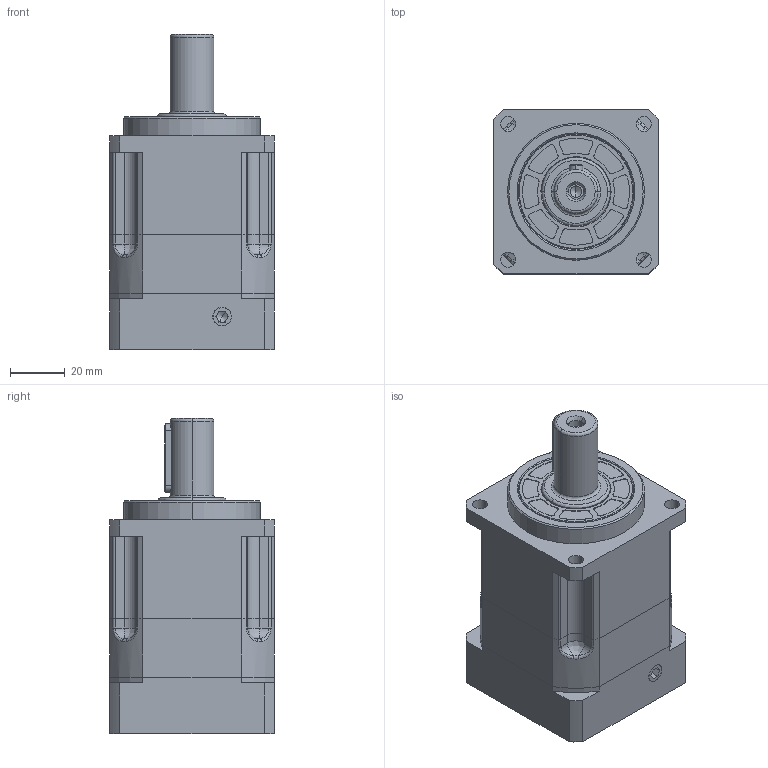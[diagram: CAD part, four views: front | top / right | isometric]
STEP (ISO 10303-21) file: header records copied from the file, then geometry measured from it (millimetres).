
FILE_DESCRIPTION (( 'STEP AP214' ), '1' );
FILE_NAME ('OB62L1-50-14-M5.STEP', '2020-08-10T08:30:36', ( '微软用户' ), ( '微软中国' ), 'SwSTEP 2.0', 'SolidWorks 2014', '' );
FILE_SCHEMA (( 'AUTOMOTIVE_DESIGN' ));
Length unit declared in the file: millimetre
Products named in the file (76): Hexagon socket head cap screws GB_GB_FASTENER_SCREWS_HSHCS M4X20-N; Hexagon socket head cap screws GB_GB_FASTENER_SCREWS_HSHCS M5X16-N; 俴陎粣5X18.5; 珨撰怮栠謫5A; Plain parallel keys_GB_CONNECTING_PIECE_KEYS_CSK 5X25; 珨撰薊粣ん14K12; Spring lock washers--Normal type GB_GB_FASTENER_WASHER_SW 4; 珨撰俴陎謫5A; Deep groove ball bearings GB_Rolling bearings 61905 GB 276-94; 珨撰萇儂楊擘50; Circlips for shaft--Type A large GB_GB_CONNECTING_PIECE_RING_RRA 25; 俴陎謫菜え5.5X12; 珨撰笢潔楊擘; Circlips for hole--Type B GB_GB_CONNECTING_PIECE_RINGS_CHB 30; Circlips for holes--Type A GB_GB_CONNECTING_PIECE_RING_RRH 42; Deep groove ball bearings GB_Rolling bearings 61808 GB 276-94; 蚐猾25X42X7; 幗渀粣創5X8X8; 怀堤粣5A; 一级齿圈Z84; OB62L1-50-14-M5; Hex socket set screws with flat point GB_GB_FAENER_SCREWS_HSFP M8X10-N; Plain parallel keys_GB_CONNECTING_PIECE_KEYS_CSK C3X12
Assembly tree (53 placements, depth 2):
  Hexagon socket head cap screws GB_GB_FASTENER_SCREWS_HSHCS M4X20-N
  俴陎粣5X18.5
  珨撰怮栠謫5A
  Hexagon socket head cap screws GB_GB_FASTENER_SCREWS_HSHCS M4X20-N
  俴陎粣5X18.5
Bounding box: 60 x 60 x 115 mm (x, y, z)
Volume: 218474.5 mm3; surface area: 112923.7 mm2
Topology: 53 solids, 53 shells, 1815 faces, 5755 edges, 3516 vertices
Faces by surface type: cylinder 592, bspline 572, plane 459, cone 178, torus 14
Entity records: 57446 total; most frequent: CARTESIAN_POINT 23763, ORIENTED_EDGE 7580, DIRECTION 5967, EDGE_CURVE 3790, AXIS2_PLACEMENT_3D 2524, VERTEX_POINT 2519, CIRCLE 1645, EDGE_LOOP 1395
